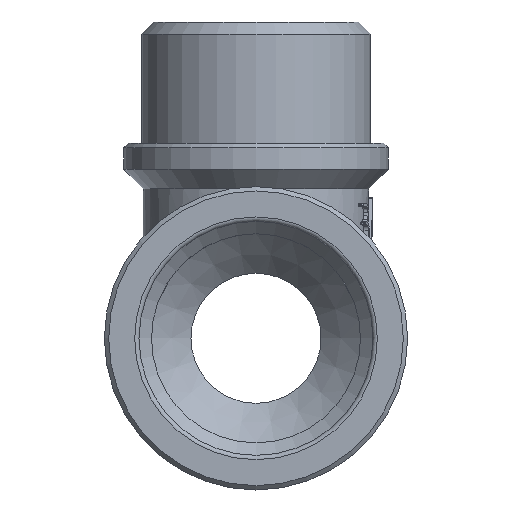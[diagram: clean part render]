
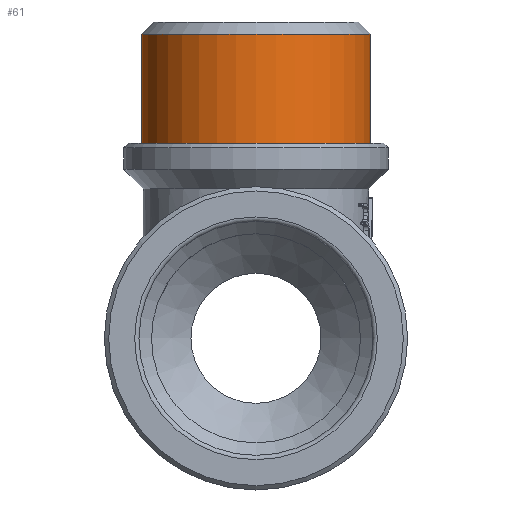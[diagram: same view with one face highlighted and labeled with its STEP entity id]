
A CAD part, front view. The second image highlights one B-rep face of the part: STEP entity #61.
In plain terms, the highlighted cylindrical face has radius 13.22 mm (diameter 26.441 mm), a full revolution.
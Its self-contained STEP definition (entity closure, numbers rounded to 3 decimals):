
#61=ADVANCED_FACE('',(#575,#577),#579,.T.);
#575=FACE_OUTER_BOUND('',#576,.T.);
#576=EDGE_LOOP('',(#3339));
#577=FACE_OUTER_BOUND('',#578,.T.);
#578=EDGE_LOOP('',(#3340));
#579=CYLINDRICAL_SURFACE('',#580,13.221);
#580=AXIS2_PLACEMENT_3D('',#581,#582,#583);
#581=CARTESIAN_POINT('',(0.,0.,22.5));
#582=DIRECTION('',(0.,0.,1.));
#583=DIRECTION('',(0.,1.,0.));
#3339=ORIENTED_EDGE('',*,*,#5609,.F.);
#3340=ORIENTED_EDGE('',*,*,#5804,.T.);
#5609=EDGE_CURVE('',#6575,#6575,#6576,.T.);
#5804=EDGE_CURVE('',#6965,#6965,#6966,.T.);
#6575=VERTEX_POINT('',#8436);
#6576=CIRCLE('',#8437,13.221);
#6965=VERTEX_POINT('',#10486);
#6966=CIRCLE('',#10487,13.221);
#8436=CARTESIAN_POINT('',(0.,13.221,35.1));
#8437=AXIS2_PLACEMENT_3D('',#8438,#8439,#8440);
#8438=CARTESIAN_POINT('',(0.,0.,35.1));
#8439=DIRECTION('',(0.,0.,1.));
#8440=DIRECTION('',(0.,1.,0.));
#10486=CARTESIAN_POINT('',(0.,13.221,22.5));
#10487=AXIS2_PLACEMENT_3D('',#10488,#10489,#10490);
#10488=CARTESIAN_POINT('',(0.,0.,22.5));
#10489=DIRECTION('',(0.,0.,1.));
#10490=DIRECTION('',(0.,1.,0.));
